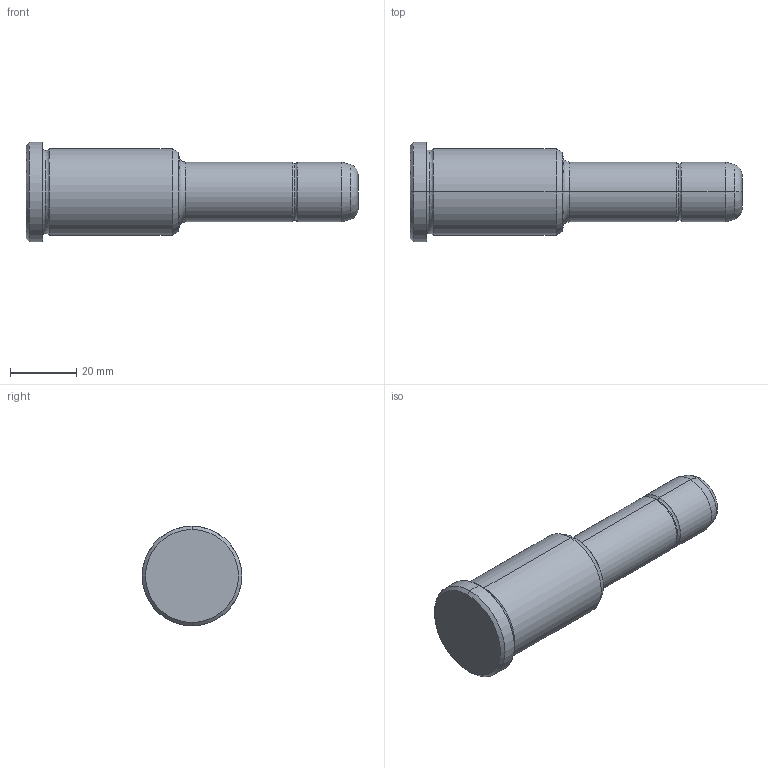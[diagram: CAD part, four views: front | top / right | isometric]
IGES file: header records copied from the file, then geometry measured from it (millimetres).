
Start section: START RECORD GO HERE.
Global section: file name: 351-18X46X100.igs; native system: DASSAULT SYSTEMES CATIA V5 R20 - www.3ds.com; preprocessor: CATIA Version 5 Release 20 ; author: Utente; organization: NB04-ASUS; date: 20210819.143739; units: millimetre
Bounding box: 100 x 30 x 30 mm (x, y, z)
Surface area: 8036.2 mm2 (no closed solid volume)
Topology: 0 solids, 0 shells, 30 faces, 172 edges, 172 vertices
Faces by surface type: revolution 26, plane 4
